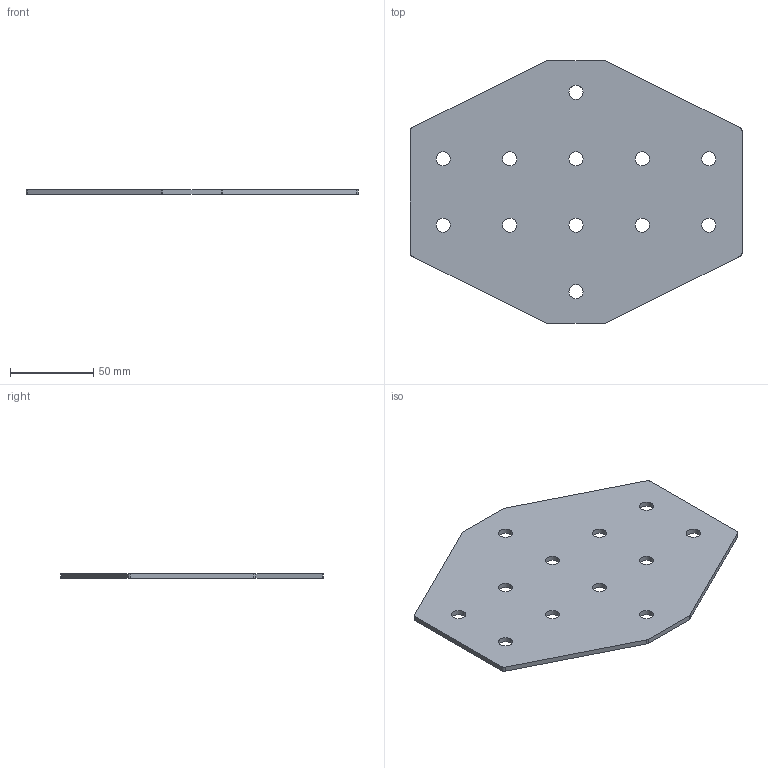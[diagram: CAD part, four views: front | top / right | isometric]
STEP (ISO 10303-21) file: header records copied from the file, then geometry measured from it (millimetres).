
FILE_DESCRIPTION(/* description */ ('Piastra di giunzione profilo doppia/singola cava centrale'),/* implementation_level */ '2;1');
FILE_NAME(/* name */ 'C:\omnitec\Desktop\Connessone PCB\JPR40-80.stp',/* time_stamp */ '2021-02-19T10:09:34+01:00',/* author */ ('omnitec'),/* organization */ ('Microsoft'),/* preprocessor_version */ 'ST-DEVELOPER v18.1',/* originating_system */ 'Autodesk Inventor 2021',/* authorisation */ '');
FILE_SCHEMA (('AUTOMOTIVE_DESIGN { 1 0 10303 214 3 1 1 }'));
Length unit declared in the file: millimetre
Products named in the file (1): JPR40-80
Bounding box: 200 x 158 x 3 mm (x, y, z)
Volume: 72581.9 mm3; surface area: 51118.1 mm2
Topology: 1 solids, 1 shells, 30 faces, 84 edges, 56 vertices
Faces by surface type: cylinder 20, plane 10
Full cylindrical faces by diameter (mm): 8.5 x12
Entity records: 1077 total; most frequent: DIRECTION 186, CARTESIAN_POINT 171, ORIENTED_EDGE 168, EDGE_CURVE 84, AXIS2_PLACEMENT_3D 71, VERTEX_POINT 56, EDGE_LOOP 54, LINE 44
